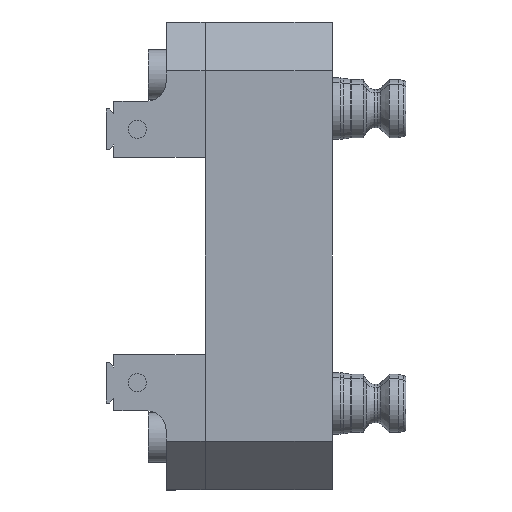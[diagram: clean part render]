
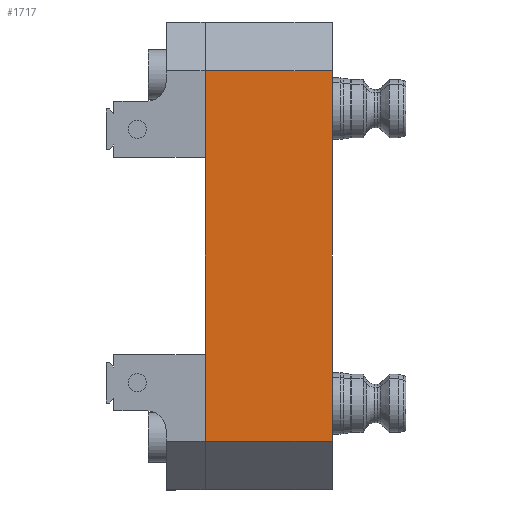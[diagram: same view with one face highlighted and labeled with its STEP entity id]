
A CAD part, left-side view. The second image highlights one B-rep face of the part: STEP entity #1717.
In plain terms, the highlighted planar face has unit normal (-1, 0, 0).
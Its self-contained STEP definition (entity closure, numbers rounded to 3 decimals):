
#285 = VECTOR ( 'NONE', #4474, 1000. ) ;
#355 = PLANE ( 'NONE',  #3298 ) ;
#381 = VERTEX_POINT ( 'NONE', #5159 ) ;
#672 = CARTESIAN_POINT ( 'NONE',  ( 0., 0., 136.525 ) ) ;
#721 = ORIENTED_EDGE ( 'NONE', *, *, #1075, .T. ) ;
#1032 = ORIENTED_EDGE ( 'NONE', *, *, #4200, .F. ) ;
#1039 = CARTESIAN_POINT ( 'NONE',  ( 0., 41.275, 15.875 ) ) ;
#1075 = EDGE_CURVE ( 'NONE', #3838, #3409, #1481, .T. ) ;
#1168 = DIRECTION ( 'NONE',  ( 0., 0., -1. ) ) ;
#1481 = LINE ( 'NONE', #7687, #6847 ) ;
#1539 = DIRECTION ( 'NONE',  ( 0., 0., -1. ) ) ;
#1652 = LINE ( 'NONE', #2600, #3884 ) ;
#1717 = ADVANCED_FACE ( 'NONE', ( #6265 ), #355, .F. ) ;
#1864 = DIRECTION ( 'NONE',  ( 0., 1., 0. ) ) ;
#2105 = EDGE_CURVE ( 'NONE', #5447, #3409, #1652, .T. ) ;
#2473 = LINE ( 'NONE', #672, #6814 ) ;
#2600 = CARTESIAN_POINT ( 'NONE',  ( 0., 0., 15.875 ) ) ;
#2832 = CARTESIAN_POINT ( 'NONE',  ( 0., 0., 15.875 ) ) ;
#2959 = ORIENTED_EDGE ( 'NONE', *, *, #2105, .F. ) ;
#3184 = DIRECTION ( 'NONE',  ( 0., 1., 0. ) ) ;
#3298 = AXIS2_PLACEMENT_3D ( 'NONE', #6869, #3321, #1539 ) ;
#3321 = DIRECTION ( 'NONE',  ( 1., 0., 0. ) ) ;
#3409 = VERTEX_POINT ( 'NONE', #1039 ) ;
#3838 = VERTEX_POINT ( 'NONE', #7432 ) ;
#3884 = VECTOR ( 'NONE', #3184, 1000. ) ;
#4200 = EDGE_CURVE ( 'NONE', #381, #5447, #7067, .T. ) ;
#4310 = EDGE_LOOP ( 'NONE', ( #1032, #7635, #721, #2959 ) ) ;
#4474 = DIRECTION ( 'NONE',  ( 0., 0., -1. ) ) ;
#5159 = CARTESIAN_POINT ( 'NONE',  ( 0., 0., 136.525 ) ) ;
#5447 = VERTEX_POINT ( 'NONE', #2832 ) ;
#5748 = EDGE_CURVE ( 'NONE', #381, #3838, #2473, .T. ) ;
#6265 = FACE_OUTER_BOUND ( 'NONE', #4310, .T. ) ;
#6323 = CARTESIAN_POINT ( 'NONE',  ( 0., 0., 152.4 ) ) ;
#6814 = VECTOR ( 'NONE', #1864, 1000. ) ;
#6847 = VECTOR ( 'NONE', #1168, 1000. ) ;
#6869 = CARTESIAN_POINT ( 'NONE',  ( 0., 0., 152.4 ) ) ;
#7067 = LINE ( 'NONE', #6323, #285 ) ;
#7432 = CARTESIAN_POINT ( 'NONE',  ( 0., 41.275, 136.525 ) ) ;
#7635 = ORIENTED_EDGE ( 'NONE', *, *, #5748, .T. ) ;
#7687 = CARTESIAN_POINT ( 'NONE',  ( 0., 41.275, 152.4 ) ) ;
